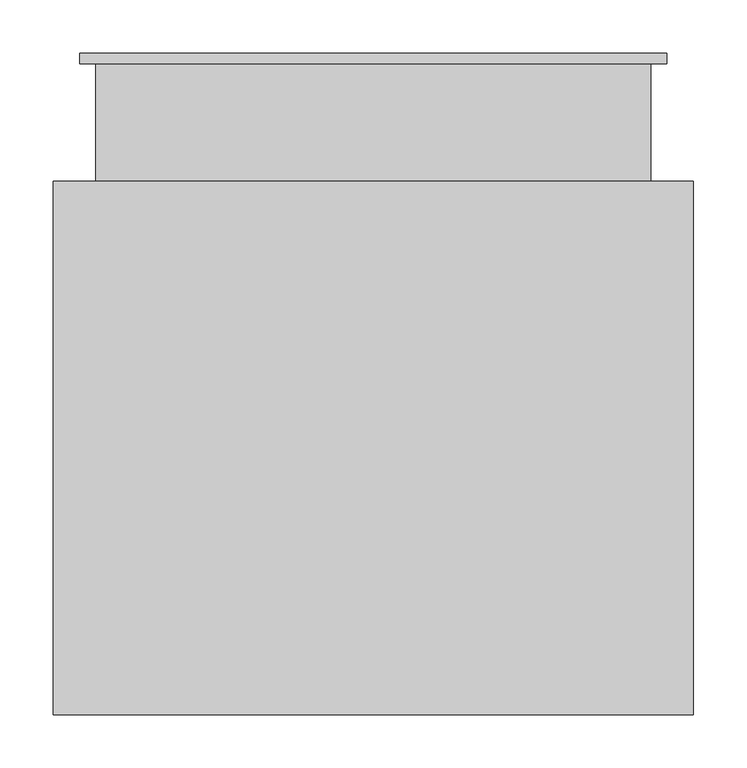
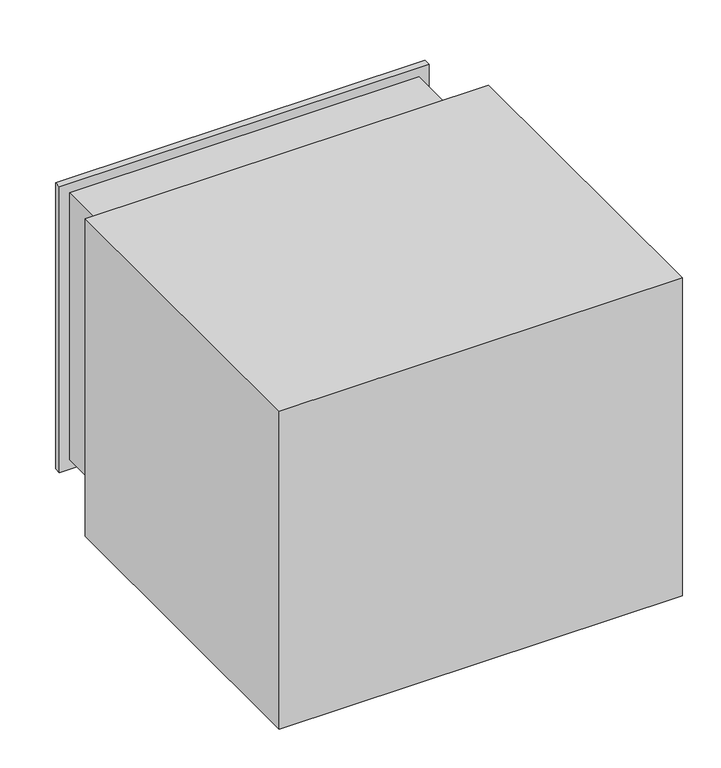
"""IFC4 building model written with IfcOpenShell, lengths in millimetres: air terminal geometry, 020_排気ガラリ : 排気ガラリ."""

from ifc_helpers import new_model, si_unit, frame, origin, place, context, project, spatial, polyline, outline, extrude, faceted_brep, source, transform, mapped, element, save


def air_terminal_f849e1e3(model_context):
    return source(origin(), model_context, "Body", "SolidModel", [
        extrude(outline(polyline([(-48.0, 151.4285714), (-48.0, 136.4285714), (10.0, 106.4285714), (10.0, 91.4285714), (8.0, 91.4285714), (8.0, 105.2113538), (-50.0, 135.2113538), (-50.0, 151.4285714), (-48.0, 151.4285714)])), frame((-250.0, 0.0, 0.0), z_axis=(1.0, 0.0, 0.0), x_axis=(0.0, 1.0, 0.0)), (0.0, 0.0, 1.0), 500.0),
        extrude(outline(polyline([(-48.0, 102.8571429), (-48.0, 87.8571429), (10.0, 57.8571429), (10.0, 42.8571429), (8.0, 42.8571429), (8.0, 56.6399252), (-50.0, 86.6399252), (-50.0, 102.8571429), (-48.0, 102.8571429)])), frame((-250.0, 0.0, 0.0), z_axis=(1.0, 0.0, 0.0), x_axis=(0.0, 1.0, 0.0)), (0.0, 0.0, 1.0), 500.0),
        extrude(outline(polyline([(-48.0, 54.2857143), (-48.0, 39.2857143), (10.0, 9.2857143), (10.0, -5.7142857), (8.0, -5.7142857), (8.0, 8.0684967), (-50.0, 38.0684967), (-50.0, 54.2857143), (-48.0, 54.2857143)])), frame((-250.0, 0.0, 0.0), z_axis=(1.0, 0.0, 0.0), x_axis=(0.0, 1.0, 0.0)), (0.0, 0.0, 1.0), 500.0),
        extrude(outline(polyline([(-48.0, 5.7142857), (-48.0, -9.2857143), (10.0, -39.2857143), (10.0, -54.2857143), (8.0, -54.2857143), (8.0, -40.5029319), (-50.0, -10.5029319), (-50.0, 5.7142857), (-48.0, 5.7142857)])), frame((-250.0, 0.0, 0.0), z_axis=(1.0, 0.0, 0.0), x_axis=(0.0, 1.0, 0.0)), (0.0, 0.0, 1.0), 500.0),
        extrude(outline(polyline([(-48.0, -42.8571429), (-48.0, -57.8571429), (10.0, -87.8571429), (10.0, -102.8571429), (8.0, -102.8571429), (8.0, -89.0743605), (-50.0, -59.0743605), (-50.0, -42.8571429), (-48.0, -42.8571429)])), frame((-250.0, 0.0, 0.0), z_axis=(1.0, 0.0, 0.0), x_axis=(0.0, 1.0, 0.0)), (0.0, 0.0, 1.0), 500.0),
        extrude(outline(polyline([(-48.0, -91.4285714), (-48.0, -106.4285714), (10.0, -136.4285714), (10.0, -151.4285714), (8.0, -151.4285714), (8.0, -137.645789), (-50.0, -107.645789), (-50.0, -91.4285714), (-48.0, -91.4285714)])), frame((-250.0, 0.0, 0.0), z_axis=(1.0, 0.0, 0.0), x_axis=(0.0, 1.0, 0.0)), (0.0, 0.0, 1.0), 500.0),
        extrude(outline(polyline([(-48.0, 200.0), (-48.0, 185.0), (10.0, 155.0), (10.0, 140.0), (8.0, 140.0), (8.0, 153.7827824), (-50.0, 183.7827824), (-50.0, 200.0), (-48.0, 200.0)])), frame((-250.0, 0.0, 0.0), z_axis=(1.0, 0.0, 0.0), x_axis=(0.0, 1.0, 0.0)), (0.0, 0.0, 1.0), 500.0),
        extrude(outline(polyline([(-48.0, -140.0), (-48.0, -155.0), (10.0, -185.0), (10.0, -200.0), (8.0, -200.0), (8.0, -186.2172176), (-50.0, -156.2172176), (-50.0, -140.0), (-48.0, -140.0)])), frame((-250.0, 0.0, 0.0), z_axis=(1.0, 0.0, 0.0), x_axis=(0.0, 1.0, 0.0)), (0.0, 0.0, 1.0), 500.0),
        faceted_brep([(250.0, 10.0, 200.0), (250.0, 10.0, -200.0), (250.0, -110.0, -200.0), (250.0, -110.0, 200.0), (275.0, 0.0, 225.0), (275.0, 0.0, -225.0), (275.0, 10.0, -225.0), (275.0, 10.0, 225.0), (260.0, -110.0, 210.0), (260.0, -110.0, -210.0), (260.0, 0.0, -210.0), (260.0, 0.0, 210.0), (-250.0, 10.0, -200.0), (-250.0, -110.0, -200.0), (-275.0, 0.0, -225.0), (-275.0, 10.0, -225.0), (-260.0, -110.0, -210.0), (-260.0, 0.0, -210.0), (-250.0, 10.0, 200.0), (-250.0, -110.0, 200.0), (-275.0, 0.0, 225.0), (-275.0, 10.0, 225.0), (-260.0, -110.0, 210.0), (-260.0, 0.0, 210.0)], [[[0, 1, 2, 3]], [[4, 5, 6, 7]], [[8, 9, 10, 11]], [[1, 12, 13, 2]], [[5, 14, 15, 6]], [[9, 16, 17, 10]], [[12, 18, 19, 13]], [[14, 20, 21, 15]], [[16, 22, 23, 17]], [[18, 0, 3, 19]], [[7, 6, 15, 21], [1, 0, 18, 12]], [[20, 4, 7, 21]], [[5, 4, 20, 14], [11, 10, 17, 23]], [[22, 8, 11, 23]], [[9, 8, 22, 16], [3, 2, 13, 19]]]),
        extrude(outline(polyline([(250.0, 0.0), (250.0, -10.0), (-250.0, -10.0), (-250.0, 0.0), (250.0, 0.0)])), frame((0.0, 0.0, -200.0), z_axis=(0.0, 0.0, 1.0), x_axis=(1.0, 0.0, 0.0)), (0.0, 0.0, 1.0), 400.0),
        extrude(outline(polyline([(300.0, -110.0), (300.0, -610.0), (-300.0, -610.0), (-300.0, -110.0), (300.0, -110.0)])), frame((0.0, 0.0, -250.0), z_axis=(0.0, 0.0, 1.0), x_axis=(1.0, 0.0, 0.0)), (0.0, 0.0, 1.0), 500.0),
    ])


if __name__ == "__main__":
    model = new_model("IFC4")
    model_context = context("Model", 3, world=origin())
    ifc_project = project(units=[si_unit("LENGTHUNIT", "METRE", prefix="MILLI")], contexts=[model_context])
    site = spatial("IfcSite", under=ifc_project)
    building = spatial("IfcBuilding", under=site)
    placement = place(None, origin())
    air_terminal_shape = air_terminal_f849e1e3(model_context)
    element("IfcAirTerminal", 1, ObjectType="020_排気ガラリ : 排気ガラリ", at=placement, inside=building, context=model_context, shape_type="MappedRepresentation", body=[
        mapped(air_terminal_shape, transform((0.0, 0.0, 0.0), x_axis=(1.0, 0.0, 0.0), y_axis=(0.0, 1.0, 0.0), z_axis=(0.0, 0.0, 1.0))),
    ])
    save(model, "model.ifc")
